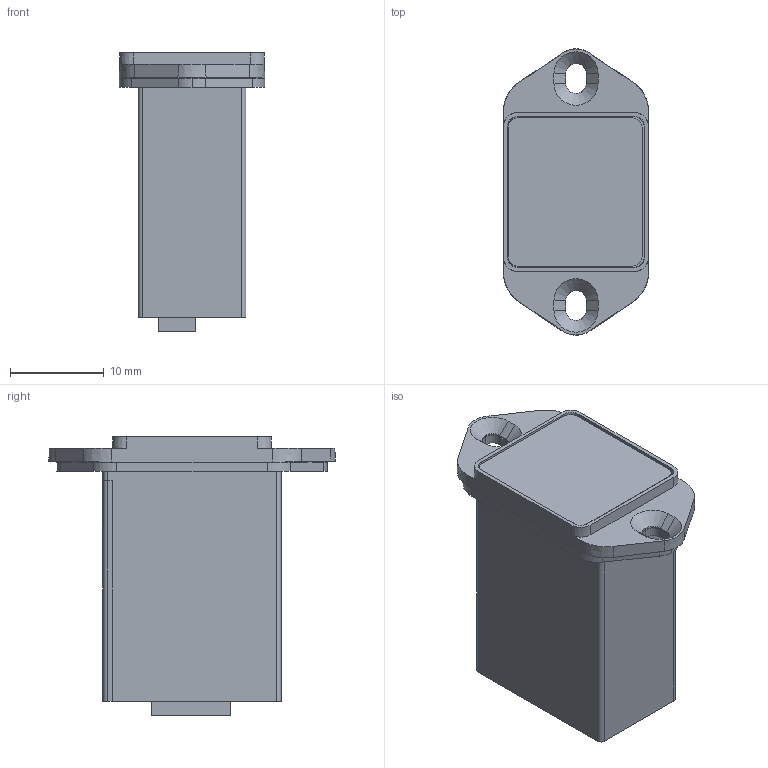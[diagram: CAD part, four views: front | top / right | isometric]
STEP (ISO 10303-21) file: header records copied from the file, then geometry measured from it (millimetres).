
FILE_DESCRIPTION (( 'STEP AP203' ), '1' );
FILE_NAME ('Neo.STEP', '2022-07-13T14:32:48', ( '' ), ( '' ), 'SwSTEP 2.0', 'SolidWorks 2021', '' );
FILE_SCHEMA (( 'CONFIG_CONTROL_DESIGN' ));
Length unit declared in the file: millimetre
Products named in the file (1): Neo
Bounding box: 15.5 x 30.54 x 29.7 mm (x, y, z)
Volume: 6596.6 mm3; surface area: 3035 mm2
Topology: 1 solids, 1 shells, 123 faces, 337 edges, 216 vertices
Faces by surface type: plane 74, cylinder 31, cone 18
Entity records: 3982 total; most frequent: CARTESIAN_POINT 725, ORIENTED_EDGE 674, DIRECTION 663, EDGE_CURVE 337, VECTOR 227, LINE 227, AXIS2_PLACEMENT_3D 218, VERTEX_POINT 216
